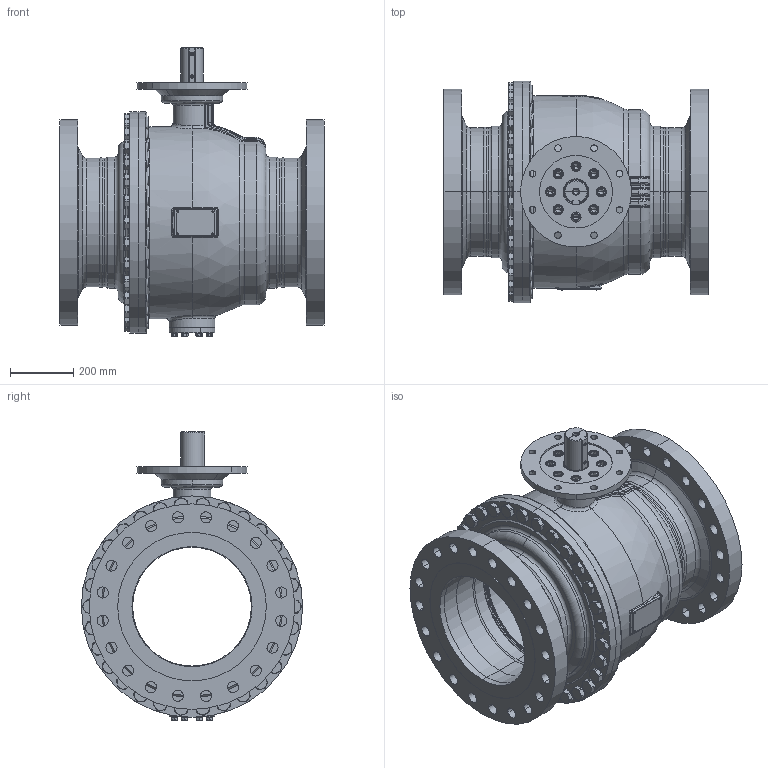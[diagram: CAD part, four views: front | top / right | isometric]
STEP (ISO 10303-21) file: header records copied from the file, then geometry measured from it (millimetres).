
FILE_DESCRIPTION((''),'2;1');
FILE_NAME('KHI-F_400_CL300-F30-P_SW0001','2026-02-05T16:37:17',('fischerkl'),('KLINGER'),'CREO PARAMETRIC BY PTC INC, 2023014','CREO PARAMETRIC BY PTC INC, 2023014','');
FILE_SCHEMA(('CONFIG_CONTROL_DESIGN'));
Products named in the file (1): KHI-F_400_CL300-F30-P_SW0001
Bounding box: 838 x 700 x 911.3 mm (x, y, z)
Volume: 68469046.3 mm3; surface area: 7481917.3 mm2
Topology: 1 solids, 4 shells, 3597 faces, 9070 edges, 5668 vertices
Faces by surface type: plane 1771, cylinder 877, cone 508, torus 311, bspline 99, sphere 31
Entity records: 153909 total; most frequent: CARTESIAN_POINT 68168, ORIENTED_EDGE 18088, DIRECTION 17768, EDGE_CURVE 9044, AXIS2_PLACEMENT_3D 6826, VERTEX_POINT 5668, VECTOR 4116, LINE 4116
